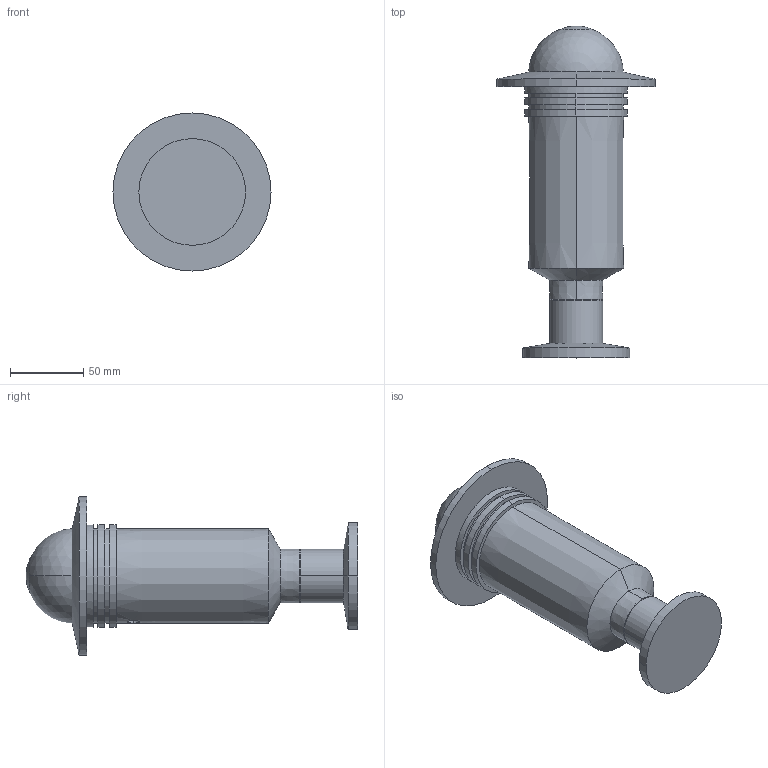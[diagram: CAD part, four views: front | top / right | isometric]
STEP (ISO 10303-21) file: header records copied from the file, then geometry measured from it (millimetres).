
FILE_DESCRIPTION (( 'STEP AP203' ), '1' );
FILE_NAME ('Z³o¿enie1_defeature.STEP', '2020-06-25T12:51:31', ( '' ), ( '' ), 'SwSTEP 2.0', 'SolidWorks 2019', '' );
FILE_SCHEMA (( 'CONFIG_CONTROL_DESIGN' ));
Length unit declared in the file: millimetre
Products named in the file (2): Z這瞠nie1_defeature
Bounding box: 108 x 226.69 x 108 mm (x, y, z)
Volume: 654021.7 mm3; surface area: 73477.7 mm2
Topology: 3 solids, 3 shells, 51 faces, 101 edges, 62 vertices
Faces by surface type: cylinder 20, cone 16, plane 12, sphere 3
Entity records: 1704 total; most frequent: CARTESIAN_POINT 482, DIRECTION 250, ORIENTED_EDGE 196, AXIS2_PLACEMENT_3D 107, EDGE_CURVE 98, VERTEX_POINT 60, EDGE_LOOP 58, CIRCLE 54
